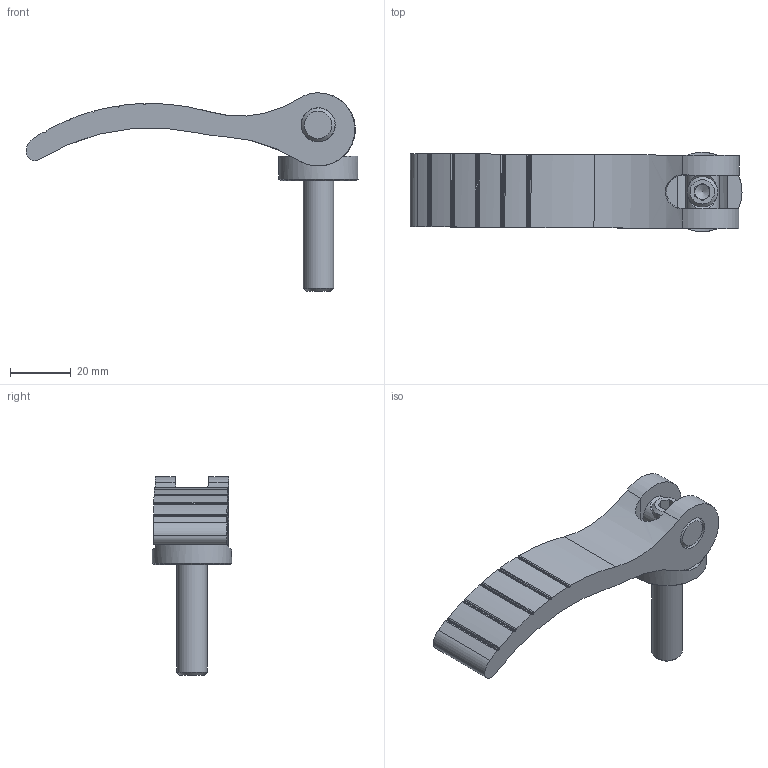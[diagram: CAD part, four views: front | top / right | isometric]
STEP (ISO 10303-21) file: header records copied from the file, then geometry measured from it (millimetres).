
FILE_DESCRIPTION(('STEP AP203'), '1');
FILE_NAME('À00360.111081025 _ Ýêñöåíòðèê 108 ìì', '', ('UNSPECIFIED'), ('UNSPECIFIED'), 'C3D Converter', 'C3D Toolkit', '');
FILE_SCHEMA(('CONFIG_CONTROL_DESIGN'));
Length unit declared in the file: millimetre
Products named in the file (5): А00360.108.03; А00360.108.02; А00360.108.01
Assembly tree (4 placements, depth 2):
  (unnamed)
    А00360.108.03
    А00360.108.02
    А00360.108.01
    (unnamed)
Bounding box: 108.87 x 26 x 64.97 mm (x, y, z)
Volume: 30456.6 mm3; surface area: 13363.3 mm2
Topology: 4 solids, 4 shells, 79 faces, 203 edges, 132 vertices
Faces by surface type: cylinder 38, plane 33, cone 6, bspline 2
Full cylindrical faces by diameter (mm): 8.376 x1, 10 x1, 10.5 x1, 11 x1, 11.2 x2, 26 x1
Entity records: 4407 total; most frequent: CARTESIAN_POINT 2238, DIRECTION 424, ORIENTED_EDGE 370, EDGE_CURVE 185, AXIS2_PLACEMENT_3D 168, VERTEX_POINT 129, EDGE_LOOP 102, LINE 88
